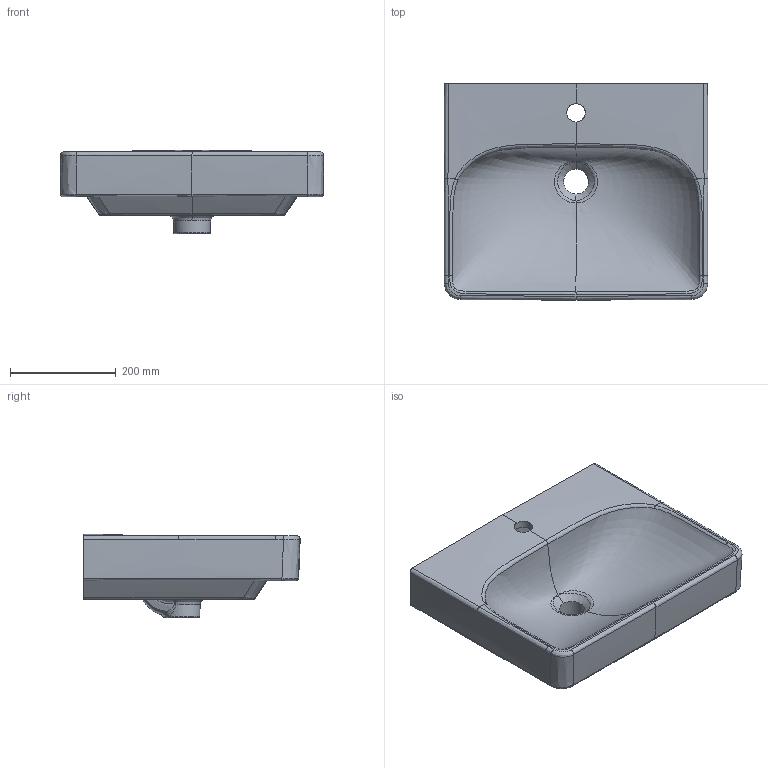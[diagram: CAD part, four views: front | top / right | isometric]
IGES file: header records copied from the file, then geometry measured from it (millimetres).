
Global section: file name: 500256; native system: Autodesk Inventor 2018; preprocessor: unknown; author: JANAN; organization: Unknown; date: 20200430.092000; units: millimetre
Bounding box: 499.98 x 409.82 x 158 mm (x, y, z)
Volume: 10364874.9 mm3; surface area: 707872.4 mm2
Topology: 1 solids, 1 shells, 321 faces, 778 edges, 456 vertices
Faces by surface type: bspline 321
